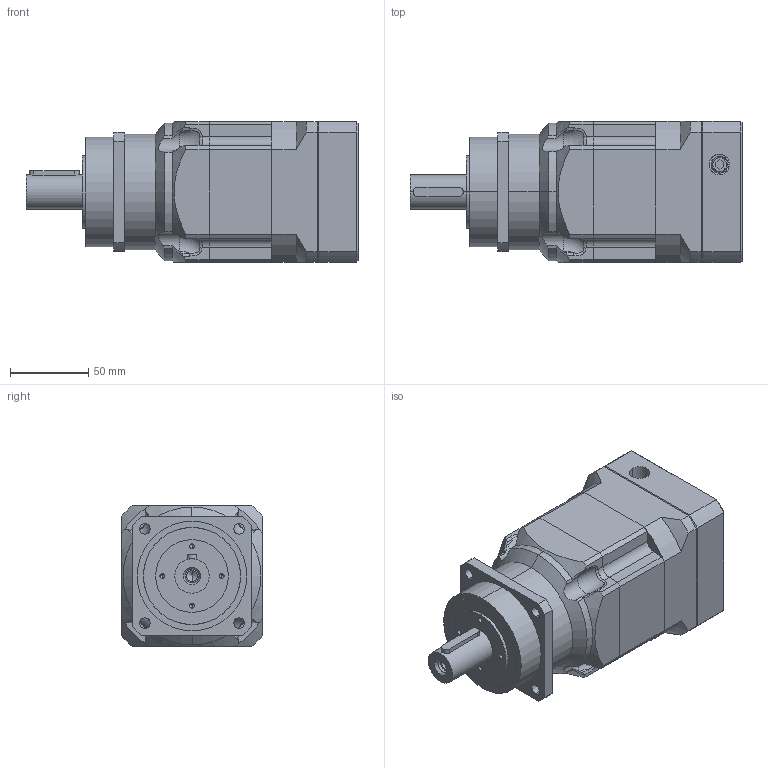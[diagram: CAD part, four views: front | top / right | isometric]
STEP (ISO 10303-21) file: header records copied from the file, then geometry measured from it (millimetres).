
FILE_DESCRIPTION (( 'STEP AP203' ), '1' );
FILE_NAME ('5A3XD.070090.031.STEP', '2018-01-09T11:07:46', ( 'smc' ), ( '' ), 'SwSTEP 2.0', 'SolidWorks 2010', '' );
FILE_SCHEMA (( 'CONFIG_CONTROL_DESIGN' ));
Length unit declared in the file: millimetre
Products named in the file (8): PEL90-後蓋-2141C30200_3.成品; 5A3XD.070090.031; 螺絲-M5x20L_M5x20L; PEL90連接板234BC33210_3.成品; PUL75+100T-加長本體_PUL75雙段-19; 螺絲-M6x16L_M6*16L; 雙圓鍵-90-115_6x6x32; PUL75本體_PUL75雙段
Assembly tree (10 placements, depth 2):
  5A3XD.070090.031
    雙圓鍵-90-115_6x6x32
    PEL90連接板234BC33210_3.成品
    螺絲-M5x20L_M5x20L  x4
    螺絲-M6x16L_M6*16L
    PUL75+100T-加長本體_PUL75雙段-19
    PUL75本體_PUL75雙段
    PEL90-後蓋-2141C30200_3.成品
Bounding box: 212 x 90 x 90 mm (x, y, z)
Volume: 1083944.7 mm3; surface area: 151193.7 mm2
Topology: 10 solids, 10 shells, 516 faces, 1259 edges, 792 vertices
Faces by surface type: cylinder 216, plane 187, cone 79, bspline 28, torus 6
Entity records: 16367 total; most frequent: CARTESIAN_POINT 4574, DIRECTION 2275, ORIENTED_EDGE 2234, EDGE_CURVE 1117, AXIS2_PLACEMENT_3D 893, VERTEX_POINT 720, EDGE_LOOP 549, VECTOR 489
